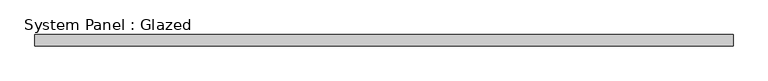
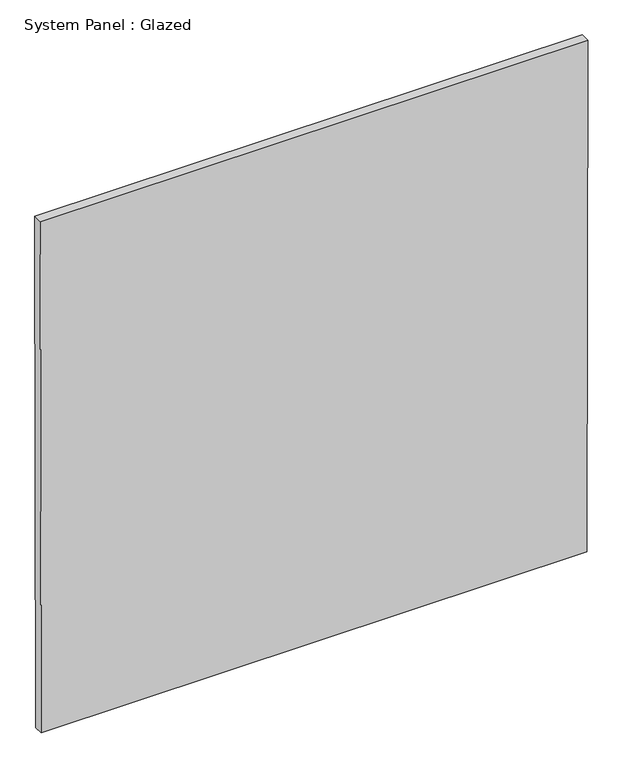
"""IFC4 building model written with IfcOpenShell, lengths in millimetres: plate geometry, System Panel : Glazed."""

from ifc_helpers import new_model, si_unit, frame, origin, place, context, project, spatial, polyline, outline, extrude, source, transform, mapped, element, save


def system_panel_glazed_640ec45f(model_context):
    return source(origin(), model_context, "Body", "SweptSolid", [
        extrude(outline(polyline([(0.0, -757.348765), (0.0, 757.3487642), (1499.9974708, 760.1033089), (1499.9974708, -760.1033089), (0.0, -757.348765)])), frame((0.0, -49.5, 0.0), z_axis=(0.0, 1.0, 0.0), x_axis=(0.0, 0.0, 1.0)), (0.0, 0.0, 1.0), 25.0),
    ])


if __name__ == "__main__":
    model = new_model("IFC4")
    model_context = context("Model", 3, world=origin())
    ifc_project = project(units=[si_unit("LENGTHUNIT", "METRE", prefix="MILLI")], contexts=[model_context])
    site = spatial("IfcSite", under=ifc_project)
    building = spatial("IfcBuilding", under=site)
    placement = place(None, origin())
    system_panel_glazed_shape = system_panel_glazed_640ec45f(model_context)
    element("IfcPlate", 1, ObjectType="System Panel : Glazed", at=placement, inside=building, context=model_context, shape_type="MappedRepresentation", body=[
        mapped(system_panel_glazed_shape, transform((0.0, 0.0, 0.0), x_axis=(1.0, 0.0, 0.0), y_axis=(0.0, 1.0, 0.0), z_axis=(0.0, 0.0, 1.0))),
    ])
    save(model, "model.ifc")
